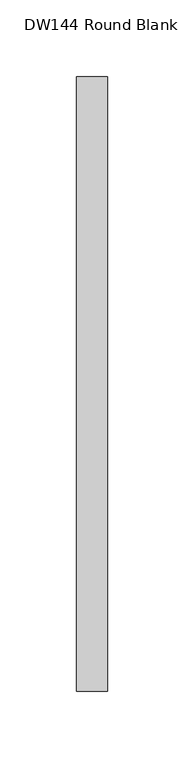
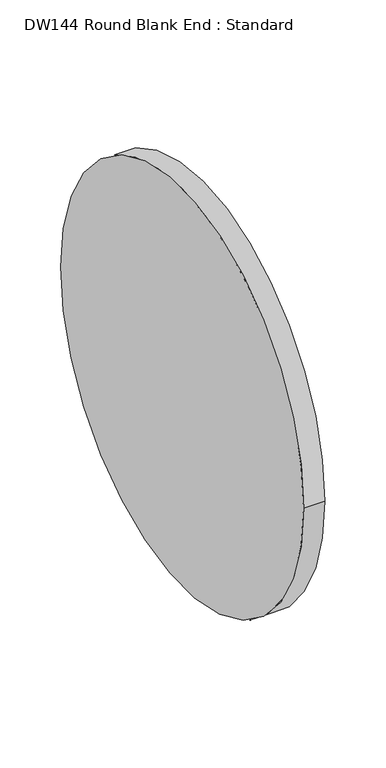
"""IFC4 building model written with IfcOpenShell, lengths in millimetres: duct fitting geometry, DW144 Round Blank End : Standard."""

from ifc_helpers import new_model, si_unit, point, frame, origin, origin_2d, place, context, project, spatial, circle_curve, trimmed, segment, composite_curve, outline, extrude, source, transform, mapped, element, save


def dw144_round_blank_end_standard_8c6f93a0(model_context):
    return source(origin(), model_context, "Body", "SweptSolid", [
        extrude(outline(composite_curve([segment(trimmed(circle_curve(origin_2d(), 200.0), [point((-200.0, 0.0))], [point((200.0, 0.0))], False, "CARTESIAN"), True, "CONTINUOUS"), segment(trimmed(circle_curve(origin_2d(), 200.0), [point((200.0, 0.0))], [point((-200.0, 0.0))], False, "CARTESIAN"), True, "CONTINUOUS")], self_intersect=False)), frame((0.0, 0.0, 0.0), z_axis=(1.0, 0.0, 0.0), x_axis=(0.0, 1.0, 0.0)), (0.0, 0.0, 1.0), 20.0),
    ])


if __name__ == "__main__":
    model = new_model("IFC4")
    model_context = context("Model", 3, world=origin())
    ifc_project = project(units=[si_unit("LENGTHUNIT", "METRE", prefix="MILLI")], contexts=[model_context])
    site = spatial("IfcSite", under=ifc_project)
    building = spatial("IfcBuilding", under=site)
    placement = place(None, origin())
    dw144_round_blank_end_standard_shape = dw144_round_blank_end_standard_8c6f93a0(model_context)
    element("IfcDuctFitting", 1, ObjectType="DW144 Round Blank End : Standard", at=placement, inside=building, context=model_context, shape_type="MappedRepresentation", body=[
        mapped(dw144_round_blank_end_standard_shape, transform((0.0, 0.0, 0.0), x_axis=(1.0, 0.0, 0.0), y_axis=(0.0, 1.0, 0.0), z_axis=(0.0, 0.0, 1.0))),
    ])
    save(model, "model.ifc")
